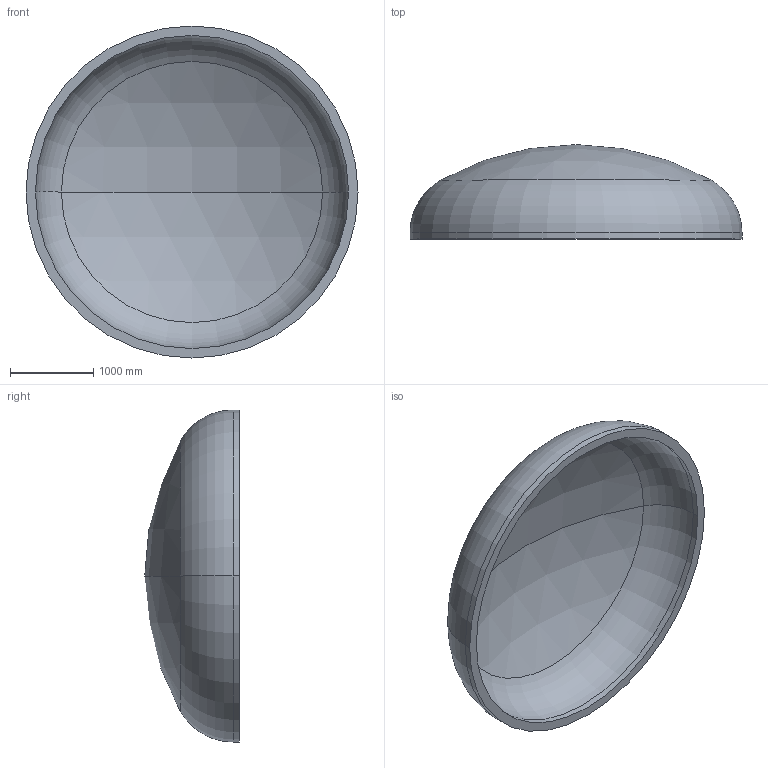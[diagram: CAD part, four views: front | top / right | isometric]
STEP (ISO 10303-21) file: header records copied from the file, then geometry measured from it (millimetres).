
FILE_DESCRIPTION (( 'STEP AP203' ), '1' );
FILE_NAME ('DIN 28013 Korbbogenform_-_Boden DIN 28013 - 4000 x 75 - I - s=114.step', '2016-07-01T22:53:48', ( '' ), ( '' ), 'SwSTEP 2.0', 'SolidWorks 2013', '' );
FILE_SCHEMA (( 'CONFIG_CONTROL_DESIGN' ));
Length unit declared in the file: millimetre
Products named in the file (1): DIN 28013 Korbbogenform_-_Boden DIN 28013 - 4000 x 75 - I - s=114
Bounding box: 4000 x 1138.05 x 4000 mm (x, y, z)
Volume: 2015241439.9 mm3; surface area: 36774057.6 mm2
Topology: 1 solids, 1 shells, 13 faces, 24 edges, 14 vertices
Faces by surface type: torus 4, cylinder 4, sphere 4, plane 1
Entity records: 407 total; most frequent: DIRECTION 72, CARTESIAN_POINT 52, ORIENTED_EDGE 48, AXIS2_PLACEMENT_3D 34, EDGE_CURVE 24, CIRCLE 20, EDGE_LOOP 14, VERTEX_POINT 14
